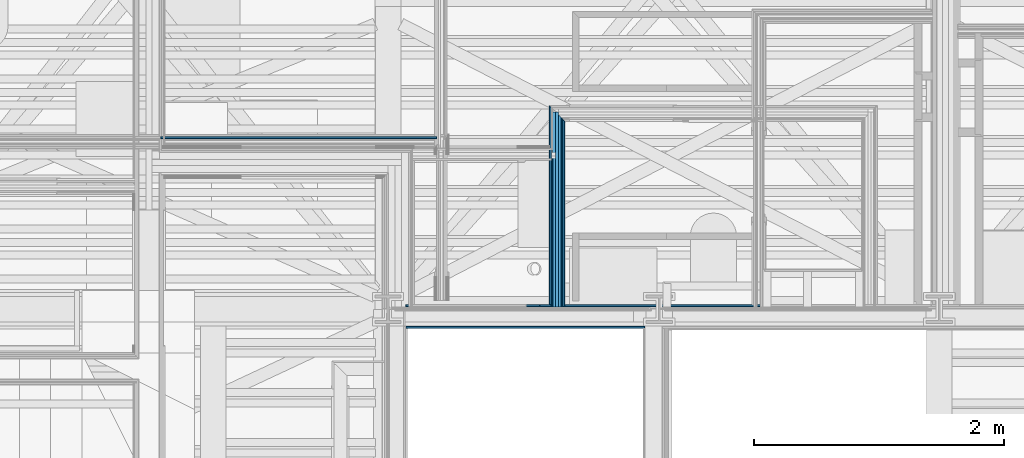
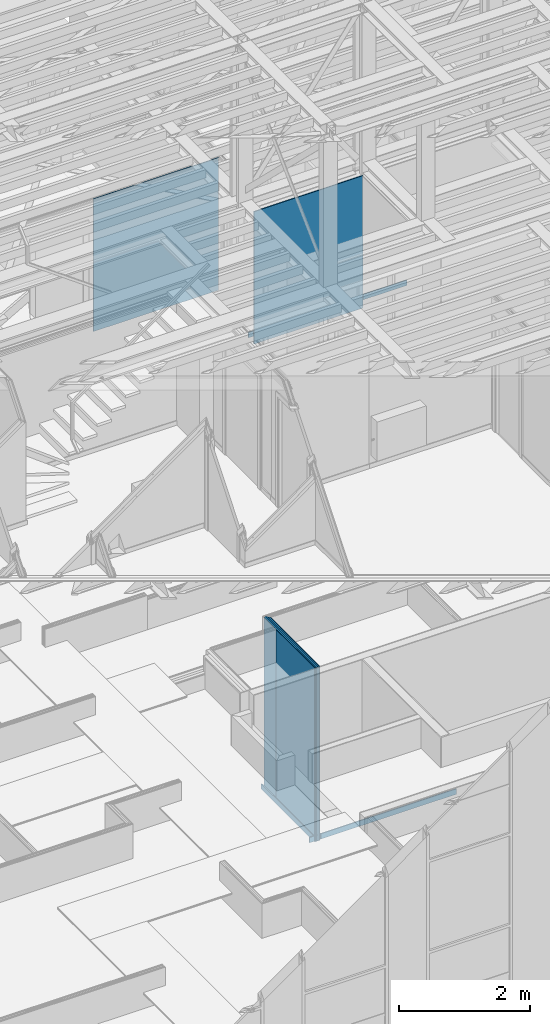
# One storey, part 44 of 183: 11 building element parts, 4 elements without a shape of their own.
"""IFC2X3 building model written with IfcOpenShell, lengths in metres."""

import ifcopenshell
import ifcopenshell.guid

model = None  # the IFC model being written
_history = None  # IfcOwnerHistory: only IFC2X3 demands one
_inside = {}  # id of a spatial element -> (the spatial element, [elements in it])
_under = {}  # id of a project, library or spatial element -> (it, [spatial elements below it])
_declared = {}  # id of a project -> (the project, [libraries it declares])
_typed = {}  # id of a type object -> (the type object, [elements of that type])
_made_of = {}  # id of a material, layer set ... -> (it, [elements and type objects made of it])


def new_model(schema):
    """Start an empty IFC model of exactly this schema.

    Asked for "IFC4X3", IfcOpenShell would pick the latest addendum, in which some entities
    have other attributes; the version numbers below select the first issue.
    IFC2X3 requires an IfcOwnerHistory on every rooted entity: one is made here for all.
    """
    global model, _history
    if schema == "IFC4X3":
        model = ifcopenshell.file(schema_version=(4, 3, 0, 0))
    else:
        model = ifcopenshell.file(schema=schema)
    _inside.clear()
    _under.clear()
    _declared.clear()
    _typed.clear()
    _made_of.clear()
    _history = None
    if model.schema == "IFC2X3":
        org = make("IfcOrganization", Name="unknown")
        user = make(
            "IfcPersonAndOrganization",
            ThePerson=make("IfcPerson", FamilyName="unknown"),
            TheOrganization=org,
        )
        app = make(
            "IfcApplication",
            ApplicationDeveloper=org,
            Version="unknown",
            ApplicationFullName="unknown",
            ApplicationIdentifier="unknown",
        )
        _history = make(
            "IfcOwnerHistory",
            OwningUser=user,
            OwningApplication=app,
            ChangeAction="ADDED",
            CreationDate=0,
        )
    return model


def make(cls, **values):
    """One entity of the class cls with the attributes given. An attribute that is None is left unset."""
    return model.create_entity(
        cls, **{name: value for name, value in values.items() if value is not None}
    )


def entity(cls, *values):
    """Any entity or typed value of the class cls, its attributes in the order of the schema. None: left unset."""
    e = model.create_entity(cls)
    for i, value in enumerate(values):
        if value is not None:
            e[i] = value
    return e


def rooted(cls, **values):
    """An entity with a GlobalId (a new one), such as an element, a storey or a relation."""
    return make(cls, GlobalId=ifcopenshell.guid.new(), OwnerHistory=_history, **values)


def si_unit(unit_type, name, prefix=None):
    """IfcSIUnit, for example si_unit("LENGTHUNIT", "METRE", prefix="MILLI")."""
    return make("IfcSIUnit", UnitType=unit_type, Prefix=prefix, Name=name)


def converted_unit(unit_type, name, factor, base, dimensions=None, offset=None):
    """IfcConversionBasedUnit, such as the inch: factor (a typed value) times the base unit."""
    return make(
        "IfcConversionBasedUnit"
        if offset is None
        else "IfcConversionBasedUnitWithOffset",
        ConversionOffset=offset,
        Dimensions=None
        if dimensions is None
        else entity("IfcDimensionalExponents", *dimensions),
        UnitType=unit_type,
        Name=name,
        ConversionFactor=make(
            "IfcMeasureWithUnit", ValueComponent=factor, UnitComponent=base
        ),
    )


def derived_unit(unit_type, elements):
    """IfcDerivedUnit: a product of units, each with its exponent."""
    return make(
        "IfcDerivedUnit",
        Elements=[
            make("IfcDerivedUnitElement", Unit=unit, Exponent=power)
            for unit, power in elements
        ],
        UnitType=unit_type,
    )


def money_unit(currency):
    """IfcMonetaryUnit."""
    return make("IfcMonetaryUnit", Currency=currency)


def assignment(units):
    """IfcUnitAssignment: the units of a project."""
    return None if units is None else make("IfcUnitAssignment", Units=units)


def point(xyz):
    """IfcCartesianPoint."""
    return None if xyz is None else make("IfcCartesianPoint", Coordinates=xyz)


def direction(xyz):
    """IfcDirection."""
    return None if xyz is None else make("IfcDirection", DirectionRatios=xyz)


def frame(location, z_axis=None, x_axis=None):
    """IfcAxis2Placement3D, a coordinate frame: its origin and axes. An axis left out is left unset."""
    return make(
        "IfcAxis2Placement3D",
        Location=point(location),
        Axis=direction(z_axis),
        RefDirection=direction(x_axis),
    )


def frame_2d(location, x_axis=None):
    """IfcAxis2Placement2D, a coordinate frame in the plane: its origin and x axis."""
    return make(
        "IfcAxis2Placement2D", Location=point(location), RefDirection=direction(x_axis)
    )


def origin_with_axes():
    """The frame at (0, 0, 0) with the z axis (0, 0, 1) and the x axis (1, 0, 0) written out."""
    return frame((0.0, 0.0, 0.0), z_axis=(0.0, 0.0, 1.0), x_axis=(1.0, 0.0, 0.0))


def place(relative_to, where):
    """IfcLocalPlacement: puts the frame where relative to a parent placement (None: the world)."""
    return make(
        "IfcLocalPlacement", PlacementRelTo=relative_to, RelativePlacement=where
    )


def context(
    kind, dimensions, precision=None, world=None, true_north=None, identifier=None
):
    """IfcGeometricRepresentationContext, for example the 3D "Model" context."""
    return make(
        "IfcGeometricRepresentationContext",
        ContextIdentifier=identifier,
        ContextType=kind,
        CoordinateSpaceDimension=dimensions,
        Precision=precision,
        WorldCoordinateSystem=world,
        TrueNorth=true_north,
    )


def subcontext(parent, identifier, kind, view, scale=None):
    """IfcGeometricRepresentationSubContext, for example "Body" below "Model"."""
    return make(
        "IfcGeometricRepresentationSubContext",
        ContextIdentifier=identifier,
        ContextType=kind,
        ParentContext=parent,
        TargetScale=scale,
        TargetView=view,
    )


def project(units=None, contexts=None):
    """IfcProject with its units and contexts."""
    return rooted(
        "IfcProject",
        Name="project",
        RepresentationContexts=contexts,
        UnitsInContext=assignment(units),
    )


def spatial(cls, under=None, at=None, **own):
    """A site, building, storey or space (cls), placed at a placement, below another one or the project."""
    s = rooted(cls, ObjectPlacement=at, **own)
    if under is not None:
        _under.setdefault(under.id(), (under, []))[1].append(s)
    return s


def polyline(points):
    """IfcPolyline through the points."""
    return make("IfcPolyline", Points=[point(p) for p in points])


def profile(cls, at=None, kind="AREA", **sizes):
    """A parametric profile (cls). Its sizes go by their IFC names, for example OverallWidth=200.0."""
    return make(cls, ProfileType=kind, Position=at, **sizes)


def rectangle(**sizes):
    """IfcRectangleProfileDef."""
    return profile("IfcRectangleProfileDef", **sizes)


def outline(outer, holes=None, kind="AREA"):
    """IfcArbitraryClosedProfileDef: a profile drawn as a closed curve; with holes, ...WithVoids."""
    if holes is None:
        return make("IfcArbitraryClosedProfileDef", ProfileType=kind, OuterCurve=outer)
    return make(
        "IfcArbitraryProfileDefWithVoids",
        ProfileType=kind,
        OuterCurve=outer,
        InnerCurves=holes,
    )


def extrude(swept, where, along, depth):
    """IfcExtrudedAreaSolid: the profile swept, set in the frame where, extruded along a direction by depth."""
    return make(
        "IfcExtrudedAreaSolid",
        SweptArea=swept,
        Position=where,
        ExtrudedDirection=direction(along),
        Depth=depth,
    )


def shape(context_of_items, identifier, shape_type, items):
    """IfcShapeRepresentation: the items that make up one representation, for example the "Body"."""
    return make(
        "IfcShapeRepresentation",
        ContextOfItems=context_of_items,
        RepresentationIdentifier=identifier,
        RepresentationType=shape_type,
        Items=items,
    )


def material(Name=None, Category=None):
    """IfcMaterial."""
    return make("IfcMaterial", Name=Name, Category=Category)


def made_of(thing, what):
    """Note that an element or type object is made of a material, layer set ...; save() writes the relation."""
    if what is not None:
        _made_of.setdefault(what.id(), (what, []))[1].append(thing)
    return thing


def type_object(cls, material=None, **own):
    """A type object (cls), such as IfcWallType, which elements share."""
    return made_of(rooted(cls, **own), material)


def element(
    cls,
    number,
    at=None,
    inside=None,
    cuts=None,
    type_object=None,
    material=None,
    context=None,
    identifier="Body",
    shape_type=None,
    held_by="IfcProductDefinitionShape",
    body=None,
    shapes=None,
    **own,
):
    """One element of the class cls, such as IfcWall. Its Tag is "e" and its number.

    at: its placement. inside: the storey or other place that contains it. cuts: it is an
    opening in that element (IfcRelVoidsElement). A single representation is given by context,
    identifier, shape_type and body (its items); several are given by shapes. held_by: the class
    of the entity that holds the representations. save() writes the other relations.
    """
    e = rooted(cls, Tag="e%d" % number, ObjectPlacement=at, **own)
    if body is not None:
        shapes = [shape(context, identifier, shape_type, body)]
    if shapes is not None:
        e.Representation = make(held_by, Representations=shapes)
    if inside is not None:
        _inside.setdefault(inside.id(), (inside, []))[1].append(e)
    if cuts is not None:
        rooted(
            "IfcRelVoidsElement", RelatingBuildingElement=cuts, RelatedOpeningElement=e
        )
    if type_object is not None:
        _typed.setdefault(type_object.id(), (type_object, []))[1].append(e)
    return made_of(e, material)


def aggregate(whole, parts):
    """IfcRelAggregates: a whole, such as a stair, and the parts it consists of."""
    return rooted("IfcRelAggregates", RelatingObject=whole, RelatedObjects=parts)


def save(model, path):
    """Write the relations noted so far, then the file.

    IfcRelAggregates (storeys below a building ...), IfcRelContainedInSpatialStructure (elements
    in a storey), IfcRelDefinesByType, IfcRelAssociatesMaterial and IfcRelDeclares: one each for
    every whole, place, type object, material and project.
    """
    for whole, parts in _under.values():
        aggregate(whole, parts)
    for where, things in _inside.values():
        rooted(
            "IfcRelContainedInSpatialStructure",
            RelatedElements=things,
            RelatingStructure=where,
        )
    for kind, things in _typed.values():
        rooted("IfcRelDefinesByType", RelatedObjects=things, RelatingType=kind)
    for what, things in _made_of.values():
        rooted("IfcRelAssociatesMaterial", RelatedObjects=things, RelatingMaterial=what)
    for by, libraries in _declared.values():
        rooted("IfcRelDeclares", RelatingContext=by, RelatedDefinitions=libraries)
    model.write(path)


model = new_model("IFC2X3")

# Units and contexts
model_context = context("Model", 3, precision=1e-05, world=origin_with_axes(), true_north=direction((0.0, 1.0)))
body_context = subcontext(model_context, "Body", "Model", "MODEL_VIEW", scale=1.0)
ifc_project = project(units=[si_unit("LENGTHUNIT", "METRE"), si_unit("AREAUNIT", "SQUARE_METRE"), si_unit("VOLUMEUNIT", "CUBIC_METRE"), si_unit("ABSORBEDDOSEUNIT", "GRAY"), si_unit("AMOUNTOFSUBSTANCEUNIT", "MOLE"), si_unit("DOSEEQUIVALENTUNIT", "SIEVERT"), si_unit("ELECTRICCAPACITANCEUNIT", "FARAD"), si_unit("ELECTRICCHARGEUNIT", "COULOMB"), si_unit("ELECTRICCONDUCTANCEUNIT", "SIEMENS"), si_unit("ELECTRICCURRENTUNIT", "AMPERE"), si_unit("ELECTRICRESISTANCEUNIT", "OHM"), si_unit("ELECTRICVOLTAGEUNIT", "VOLT"), si_unit("ENERGYUNIT", "JOULE"), si_unit("FORCEUNIT", "NEWTON"), si_unit("FREQUENCYUNIT", "HERTZ"), si_unit("ILLUMINANCEUNIT", "LUX"), si_unit("INDUCTANCEUNIT", "HENRY"), si_unit("LUMINOUSFLUXUNIT", "LUMEN"), si_unit("LUMINOUSINTENSITYUNIT", "CANDELA"), si_unit("MAGNETICFLUXDENSITYUNIT", "TESLA"), si_unit("MAGNETICFLUXUNIT", "WEBER"), si_unit("MASSUNIT", "GRAM"), converted_unit("PLANEANGLEUNIT", "degree", entity("IfcReal", 0.0174532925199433), si_unit("PLANEANGLEUNIT", "RADIAN"), dimensions=[0, 0, 0, 0, 0, 0, 0]), si_unit("POWERUNIT", "WATT"), si_unit("PRESSUREUNIT", "PASCAL"), si_unit("RADIOACTIVITYUNIT", "BECQUEREL"), si_unit("SOLIDANGLEUNIT", "STERADIAN"), si_unit("THERMODYNAMICTEMPERATUREUNIT", "KELVIN"), si_unit("TIMEUNIT", "SECOND"), derived_unit("ACCELERATIONUNIT", [(si_unit("LENGTHUNIT", "METRE"), 1), (si_unit("TIMEUNIT", "SECOND"), -2)]), derived_unit("ANGULARVELOCITYUNIT", [(converted_unit("PLANEANGLEUNIT", "degree", entity("IfcReal", 0.0174532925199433), si_unit("PLANEANGLEUNIT", "RADIAN"), dimensions=[0, 0, 0, 0, 0, 0, 0]), 1), (si_unit("TIMEUNIT", "SECOND"), -1)]), derived_unit("CURVATUREUNIT", [(converted_unit("PLANEANGLEUNIT", "degree", entity("IfcReal", 0.0174532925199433), si_unit("PLANEANGLEUNIT", "RADIAN"), dimensions=[0, 0, 0, 0, 0, 0, 0]), 1), (si_unit("LENGTHUNIT", "METRE"), -1)]), derived_unit("DYNAMICVISCOSITYUNIT", [(si_unit("PRESSUREUNIT", "PASCAL"), 1), (si_unit("TIMEUNIT", "SECOND"), 1)]), derived_unit("HEATFLUXDENSITYUNIT", [(si_unit("POWERUNIT", "WATT"), 1), (si_unit("LENGTHUNIT", "METRE"), -2)]), derived_unit("HEATINGVALUEUNIT", [(si_unit("ENERGYUNIT", "JOULE"), 1), (si_unit("MASSUNIT", "GRAM"), -1)]), derived_unit("INTEGERCOUNTRATEUNIT", [(si_unit("TIMEUNIT", "SECOND"), -1)]), derived_unit("IONCONCENTRATIONUNIT", [(si_unit("MASSUNIT", "GRAM"), 1), (si_unit("VOLUMEUNIT", "CUBIC_METRE"), -1)]), derived_unit("ISOTHERMALMOISTURECAPACITYUNIT", [(si_unit("VOLUMEUNIT", "CUBIC_METRE"), 1), (si_unit("MASSUNIT", "GRAM"), -1)]), derived_unit("KINEMATICVISCOSITYUNIT", [(si_unit("AREAUNIT", "SQUARE_METRE"), 1), (si_unit("TIMEUNIT", "SECOND"), -1)]), derived_unit("LINEARFORCEUNIT", [(si_unit("FORCEUNIT", "NEWTON"), 1), (si_unit("LENGTHUNIT", "METRE"), -1)]), derived_unit("LINEARMOMENTUNIT", [(si_unit("FORCEUNIT", "NEWTON"), 1), (si_unit("LENGTHUNIT", "METRE"), -1)]), derived_unit("LINEARSTIFFNESSUNIT", [(si_unit("FORCEUNIT", "NEWTON"), 1), (si_unit("LENGTHUNIT", "METRE"), -1)]), derived_unit("LINEARVELOCITYUNIT", [(si_unit("LENGTHUNIT", "METRE"), 1), (si_unit("TIMEUNIT", "SECOND"), -1)]), derived_unit("LUMINOUSINTENSITYDISTRIBUTIONUNIT", [(si_unit("LUMINOUSINTENSITYUNIT", "CANDELA"), 1), (si_unit("LUMINOUSFLUXUNIT", "LUMEN"), -1)]), derived_unit("MASSDENSITYUNIT", [(si_unit("MASSUNIT", "GRAM"), 1), (si_unit("VOLUMEUNIT", "CUBIC_METRE"), -1)]), derived_unit("MASSFLOWRATEUNIT", [(si_unit("MASSUNIT", "GRAM"), 1), (si_unit("TIMEUNIT", "SECOND"), -1)]), derived_unit("MASSPERLENGTHUNIT", [(si_unit("MASSUNIT", "GRAM"), 1), (si_unit("LENGTHUNIT", "METRE"), -1)]), derived_unit("MODULUSOFELASTICITYUNIT", [(si_unit("FORCEUNIT", "NEWTON"), 1), (si_unit("AREAUNIT", "SQUARE_METRE"), -1)]), derived_unit("MODULUSOFLINEARSUBGRADEREACTIONUNIT", [(si_unit("FORCEUNIT", "NEWTON"), 1), (si_unit("LENGTHUNIT", "METRE"), -2)]), derived_unit("MODULUSOFROTATIONALSUBGRADEREACTIONUNIT", [(si_unit("FORCEUNIT", "NEWTON"), 1), (si_unit("LENGTHUNIT", "METRE"), 1)]), derived_unit("MODULUSOFSUBGRADEREACTIONUNIT", [(si_unit("FORCEUNIT", "NEWTON"), 1), (si_unit("VOLUMEUNIT", "CUBIC_METRE"), -1)]), derived_unit("MOISTUREDIFFUSIVITYUNIT", [(si_unit("VOLUMEUNIT", "CUBIC_METRE"), 1), (si_unit("TIMEUNIT", "SECOND"), -1)]), derived_unit("MOLECULARWEIGHTUNIT", [(si_unit("MASSUNIT", "GRAM"), 1), (si_unit("AMOUNTOFSUBSTANCEUNIT", "MOLE"), -1)]), derived_unit("PLANARFORCEUNIT", [(si_unit("FORCEUNIT", "NEWTON"), 1), (si_unit("LENGTHUNIT", "METRE"), -2)]), derived_unit("ROTATIONALFREQUENCYUNIT", [(si_unit("TIMEUNIT", "SECOND"), -1)]), derived_unit("ROTATIONALMASSUNIT", [(si_unit("MASSUNIT", "GRAM"), 1), (si_unit("LENGTHUNIT", "METRE"), 2)]), derived_unit("ROTATIONALSTIFFNESSUNIT", [(si_unit("FORCEUNIT", "NEWTON"), 1), (si_unit("LENGTHUNIT", "METRE"), 1), (converted_unit("PLANEANGLEUNIT", "degree", entity("IfcReal", 0.0174532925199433), si_unit("PLANEANGLEUNIT", "RADIAN"), dimensions=[0, 0, 0, 0, 0, 0, 0]), -1)]), derived_unit("SECTIONAREAINTEGRALUNIT", [(si_unit("LENGTHUNIT", "METRE"), 5)]), derived_unit("SECTIONMODULUSUNIT", [(si_unit("LENGTHUNIT", "METRE"), 3)]), derived_unit("SHEARMODULUSUNIT", [(si_unit("FORCEUNIT", "NEWTON"), 1), (si_unit("AREAUNIT", "SQUARE_METRE"), -1)]), derived_unit("SOUNDPOWERUNIT", [(si_unit("ENERGYUNIT", "JOULE"), 1), (si_unit("TIMEUNIT", "SECOND"), -1)]), derived_unit("SPECIFICHEATCAPACITYUNIT", [(si_unit("FORCEUNIT", "NEWTON"), 1), (si_unit("MASSUNIT", "GRAM"), -1), (si_unit("THERMODYNAMICTEMPERATUREUNIT", "KELVIN"), -1)]), derived_unit("TEMPERATUREGRADIENTUNIT", [(si_unit("THERMODYNAMICTEMPERATUREUNIT", "KELVIN"), 1), (si_unit("LENGTHUNIT", "METRE"), -1)]), derived_unit("THERMALADMITTANCEUNIT", [(si_unit("POWERUNIT", "WATT"), 1), (si_unit("AREAUNIT", "SQUARE_METRE"), -1), (si_unit("THERMODYNAMICTEMPERATUREUNIT", "KELVIN"), -1)]), derived_unit("THERMALCONDUCTANCEUNIT", [(si_unit("POWERUNIT", "WATT"), 1), (si_unit("LENGTHUNIT", "METRE"), -1), (si_unit("THERMODYNAMICTEMPERATUREUNIT", "KELVIN"), -1)]), derived_unit("THERMALEXPANSIONCOEFFICIENTUNIT", [(si_unit("THERMODYNAMICTEMPERATUREUNIT", "KELVIN"), -1)]), derived_unit("THERMALRESISTANCEUNIT", [(si_unit("AREAUNIT", "SQUARE_METRE"), 1), (si_unit("POWERUNIT", "WATT"), -1)]), derived_unit("THERMALTRANSMITTANCEUNIT", [(si_unit("POWERUNIT", "WATT"), 1), (si_unit("AREAUNIT", "SQUARE_METRE"), -1), (si_unit("THERMODYNAMICTEMPERATUREUNIT", "KELVIN"), -1)]), derived_unit("TORQUEUNIT", [(si_unit("FORCEUNIT", "NEWTON"), 1), (si_unit("LENGTHUNIT", "METRE"), 1)]), derived_unit("VAPORPERMEABILITYUNIT", [(si_unit("MASSUNIT", "GRAM"), 1), (si_unit("TIMEUNIT", "SECOND"), -1)]), derived_unit("VOLUMETRICFLOWRATEUNIT", [(si_unit("VOLUMEUNIT", "CUBIC_METRE"), 1), (si_unit("TIMEUNIT", "SECOND"), -1)]), derived_unit("WARPINGCONSTANTUNIT", [(si_unit("LENGTHUNIT", "METRE"), 6)]), derived_unit("WARPINGMOMENTUNIT", [(si_unit("FORCEUNIT", "NEWTON"), 1), (si_unit("LENGTHUNIT", "METRE"), 2)]), money_unit("GBP")], contexts=[model_context])

# Site, building, storey
site_placement = place(None, origin_with_axes())
site = spatial("IfcSite", under=ifc_project, at=site_placement, Name="Site", CompositionType="ELEMENT")
building_placement = place(site_placement, origin_with_axes())
building = spatial("IfcBuilding", under=site, at=building_placement, Name="Building01", CompositionType="ELEMENT")
storey_placement = place(building_placement, frame((0.0, 0.0, 5.15), z_axis=(0.0, 0.0, 1.0), x_axis=(1.0, 0.0, 0.0)))
storey = spatial("IfcBuildingStorey", under=building, at=storey_placement, Name="1F", CompositionType="ELEMENT", Elevation=5.15)

# Wall, building element part
wall_type_1 = type_object("IfcWallType", Name="SHE_A-Walls_Type03a_BlockworkWall_170mm", PredefinedType="NOTDEFINED")
wall_1_placement = place(storey_placement, frame((17.75, 8.805, 0.0), z_axis=(0.0, 0.0, 1.0), x_axis=(-1.0, 0.0, 0.0)))
wall_1 = element("IfcWall", 1, at=wall_1_placement, inside=storey, type_object=wall_type_1, Name="4B", ObjectType="SHE_A-Walls_Type03a_BlockworkWall_170mm")
ifc_material_1 = material(Name="A_BSUK_Walls_Timber")
building_element_part_1_placement = place(wall_1_placement, origin_with_axes())
building_element_part_1 = element("IfcBuildingElementPart", 2, at=building_element_part_1_placement, material=ifc_material_1, Name="5", context=body_context, shape_type="SweptSolid", body=[
    extrude(rectangle(XDim=2.589714, YDim=0.015, at=frame_2d((6.151272, -0.0225), x_axis=(-1.0, 0.0))), frame((0.0, 0.0, 0.015), z_axis=(0.0, 0.0, 1.0), x_axis=(1.0, 0.0, 0.0)), (0.0, 0.0, 1.0), 0.1),
])
aggregate(wall_1, [building_element_part_1])

# Wall, building element parts
wall_type_2 = type_object("IfcWallType", Name="SHE_A-Walls_Type05a_Partition_95mm_tall", PredefinedType="NOTDEFINED")
wall_2_placement = place(storey_placement, frame((10.453871, 8.82, 0.0), z_axis=(0.0, 0.0, 1.0), x_axis=(0.0, 1.0, 0.0)))
wall_2 = element("IfcWall", 3, at=wall_2_placement, inside=storey, type_object=wall_type_2, Name="5A", ObjectType="SHE_A-Walls_Type05a_Partition_95mm_tall")
placement_1 = place(wall_2_placement, origin_with_axes())
building_element_part_2 = element("IfcBuildingElementPart", 4, at=placement_1, material=ifc_material_1, Name="1", context=body_context, shape_type="SweptSolid", body=[
    extrude(outline(polyline([(1.5, -0.035), (0.0, -0.035), (0.0, -0.05), (1.485, -0.05), (1.5, -0.035)])), frame((0.0, 0.0, 0.015), z_axis=(0.0, 0.0, 1.0), x_axis=(1.0, 0.0, 0.0)), (0.0, 0.0, 1.0), 0.1),
])
ifc_material_2 = material(Name="A_BSUK_WallInternal_Finishes_Plasterboard")
building_element_part_3 = element("IfcBuildingElementPart", 5, at=placement_1, material=ifc_material_2, Name="2", context=body_context, shape_type="SweptSolid", body=[
    extrude(outline(polyline([(1.512, -0.023), (0.0, -0.023), (0.0, -0.035), (1.5, -0.035), (1.512, -0.023)])), origin_with_axes(), (0.0, 0.0, 1.0), 3.24),
])
ifc_material_3 = material(Name="Air Cavity")
building_element_part_4 = element("IfcBuildingElementPart", 6, at=placement_1, material=ifc_material_3, Name="3", context=body_context, shape_type="SweptSolid", body=[
    extrude(outline(polyline([(1.535, 0.0), (0.0, 0.0), (0.0, -0.023), (1.512, -0.023), (1.535, 0.0)])), origin_with_axes(), (0.0, 0.0, 1.0), 3.24),
])
ifc_material_4 = material(Name="A_BSUK_Insulation")
building_element_part_5 = element("IfcBuildingElementPart", 7, at=placement_1, material=ifc_material_4, Name="4", context=body_context, shape_type="SweptSolid", body=[
    extrude(rectangle(XDim=1.56, YDim=0.025, at=frame_2d((0.78, 0.0125), x_axis=(-1.0, 0.0))), origin_with_axes(), (0.0, 0.0, 1.0), 3.24),
])
building_element_part_6 = element("IfcBuildingElementPart", 8, at=placement_1, material=ifc_material_3, Name="5", context=body_context, shape_type="SweptSolid", body=[
    extrude(rectangle(XDim=1.56, YDim=0.023, at=frame_2d((0.78, 0.0365), x_axis=(-1.0, 0.0))), origin_with_axes(), (0.0, 0.0, 1.0), 3.24),
])
building_element_part_7 = element("IfcBuildingElementPart", 9, at=placement_1, material=ifc_material_2, Name="6", context=body_context, shape_type="SweptSolid", body=[
    extrude(rectangle(XDim=0.012, YDim=1.184704, at=frame_2d((0.592352, 0.054), x_axis=(0.0, -1.0))), origin_with_axes(), (0.0, 0.0, 1.0), 3.24),
])
building_element_part_8 = element("IfcBuildingElementPart", 10, at=placement_1, material=ifc_material_1, Name="8", context=body_context, shape_type="SweptSolid", body=[
    extrude(outline(polyline([(1.61, 0.075), (0.015, 0.075), (0.015, 0.06), (1.595, 0.06), (1.61, 0.075)])), frame((0.0, 0.0, 0.015), z_axis=(0.0, 0.0, 1.0), x_axis=(1.0, 0.0, 0.0)), (0.0, 0.0, 1.0), 0.1),
])
aggregate(wall_2, [building_element_part_2, building_element_part_3, building_element_part_4, building_element_part_5, building_element_part_6, building_element_part_7, building_element_part_8])

wall_3_placement = place(storey_placement, frame((9.215, 8.665, 9.78), z_axis=(0.0, 0.0, 1.0), x_axis=(1.0, 0.0, 0.0)))
wall_3 = element("IfcWall", 11, at=wall_3_placement, inside=storey, type_object=wall_type_1, Name="4B", ObjectType="SHE_A-Walls_Type03a_BlockworkWall_170mm")
placement_2 = place(wall_3_placement, origin_with_axes())
building_element_part_9 = element("IfcBuildingElementPart", 12, at=placement_2, material=ifc_material_2, Name="2", context=body_context, shape_type="SweptSolid", body=[
    extrude(rectangle(XDim=1.915, YDim=0.015, at=frame_2d((0.9725, -0.0075), x_axis=(-1.0, 0.0))), origin_with_axes(), (0.0, 0.0, 1.0), 2.468),
])
building_element_part_10 = element("IfcBuildingElementPart", 13, at=placement_2, material=ifc_material_1, Name="6", context=body_context, shape_type="SweptSolid", body=[
    extrude(rectangle(XDim=2.787381, YDim=0.015, at=frame_2d((1.40869, 0.1625), x_axis=(-1.0, 0.0))), frame((0.0, 0.0, 0.015), z_axis=(0.0, 0.0, 1.0), x_axis=(1.0, 0.0, 0.0)), (0.0, 0.0, 1.0), 0.1),
])
aggregate(wall_3, [building_element_part_9, building_element_part_10])

# Wall, building element part
wall_type_3 = type_object("IfcWallType", Name="SHE_A-Walls_Type05b_Partition_80mm", PredefinedType="NOTDEFINED")
wall_4_placement = place(storey_placement, frame((2.872, 10.126939, 9.78), z_axis=(0.0, 0.0, 1.0), x_axis=(1.0, 0.0, 0.0)))
wall_4 = element("IfcWall", 14, at=wall_4_placement, inside=storey, type_object=wall_type_3, Name="5B", ObjectType="SHE_A-Walls_Type05b_Partition_80mm")
building_element_part_11_placement = place(wall_4_placement, origin_with_axes())
building_element_part_11 = element("IfcBuildingElementPart", 15, at=building_element_part_11_placement, material=ifc_material_2, Name="9", context=body_context, shape_type="SweptSolid", body=[
    extrude(rectangle(XDim=0.015, YDim=2.21, at=frame_2d((5.503024, 0.0455), x_axis=(0.0, -1.0))), origin_with_axes(), (0.0, 0.0, 1.0), 2.468),
])
aggregate(wall_4, [building_element_part_11])

save(model, "model.ifc")
